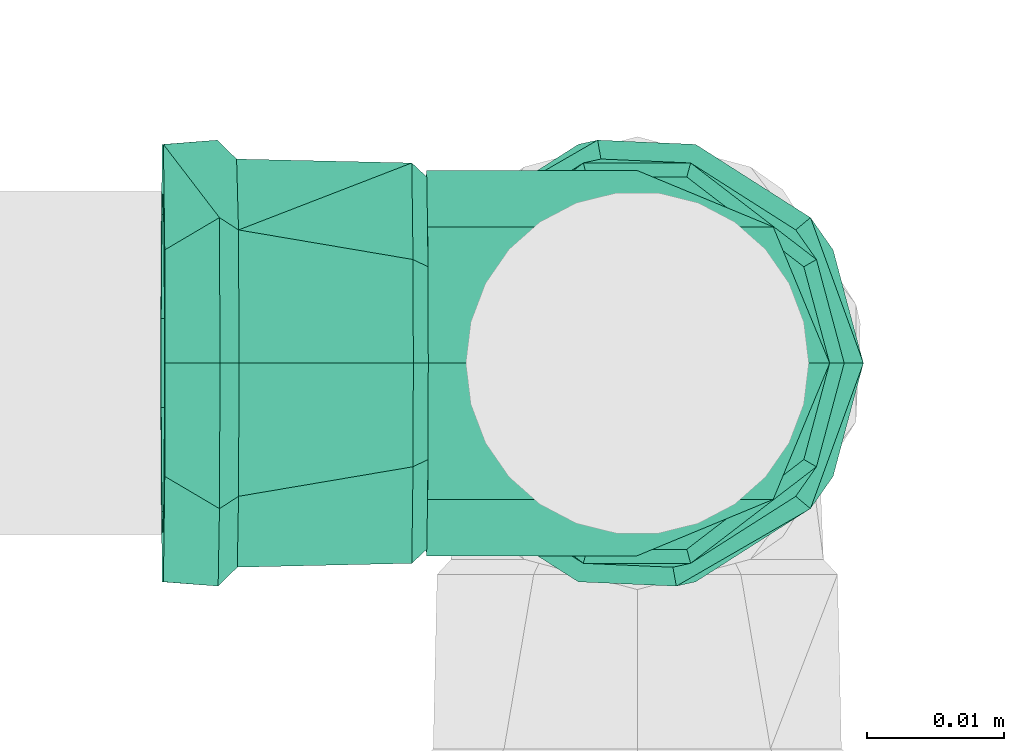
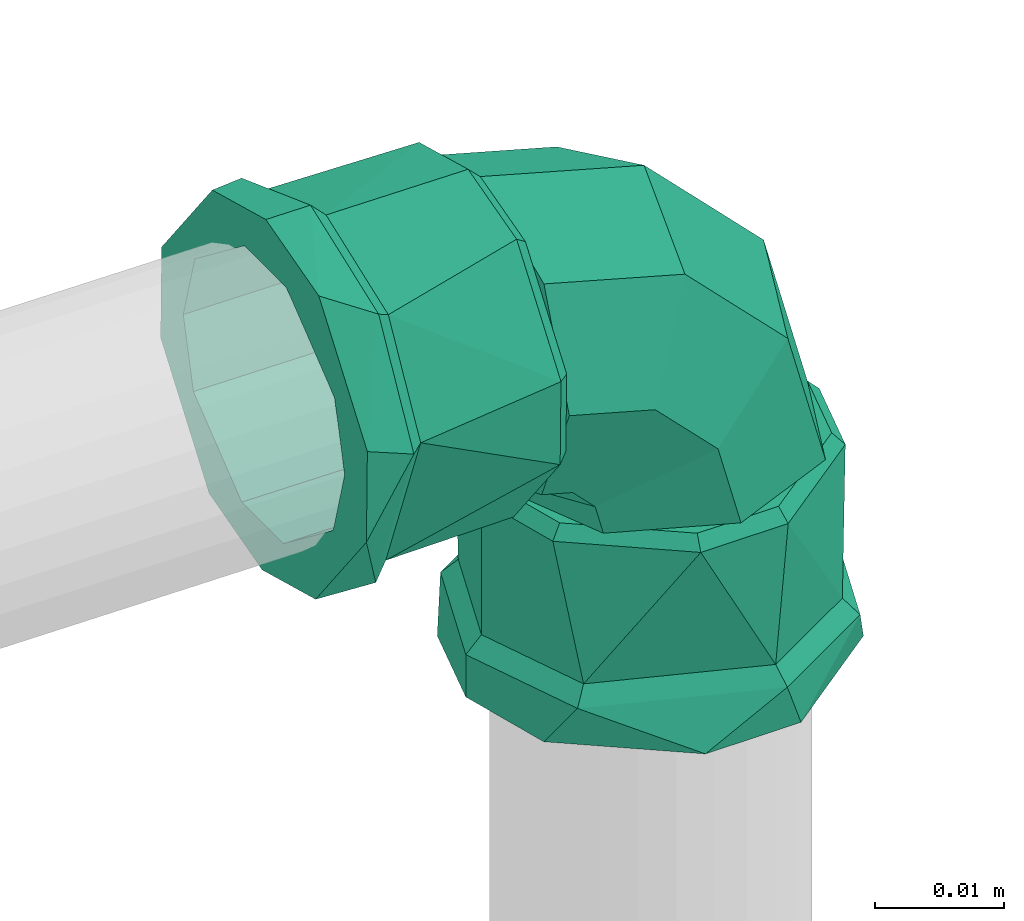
# One storey, part 310 of 589: 1 flow fitting.
"""IFC2X3 building model written with IfcOpenShell, lengths in millimetres."""

from ifc_helpers import new_model, entity, si_unit, converted_unit, derived_unit, direction, frame, origin, place, context, subcontext, project, spatial, faceted_brep, source, transform, mapped, material, type_object, type_shapes, element, save


model = new_model("IFC2X3")

# Units and contexts
model_context = context("Model", 3, precision=0.01, world=origin(), true_north=direction((6.123031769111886e-17, 1.0)))
body_context = subcontext(model_context, "Body", "Model", "MODEL_VIEW")
ifc_project = project(units=[si_unit("LENGTHUNIT", "METRE", prefix="MILLI"), si_unit("AREAUNIT", "SQUARE_METRE"), si_unit("VOLUMEUNIT", "CUBIC_METRE"), converted_unit("PLANEANGLEUNIT", "DEGREE", entity("IfcRatioMeasure", 0.017453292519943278), si_unit("PLANEANGLEUNIT", "RADIAN"), dimensions=[0, 0, 0, 0, 0, 0, 0]), si_unit("MASSUNIT", "GRAM", prefix="KILO"), derived_unit("MASSDENSITYUNIT", [(si_unit("MASSUNIT", "GRAM", prefix="KILO"), 1), (si_unit("LENGTHUNIT", "METRE"), -3)]), derived_unit("IONCONCENTRATIONUNIT", [(si_unit("MASSUNIT", "GRAM", prefix="KILO"), 1), (si_unit("LENGTHUNIT", "METRE"), -3)]), derived_unit("MOMENTOFINERTIAUNIT", [(si_unit("LENGTHUNIT", "METRE"), 4)]), si_unit("TIMEUNIT", "SECOND"), si_unit("FREQUENCYUNIT", "HERTZ"), si_unit("THERMODYNAMICTEMPERATUREUNIT", "DEGREE_CELSIUS"), derived_unit("THERMALTRANSMITTANCEUNIT", [(si_unit("MASSUNIT", "GRAM", prefix="KILO"), 1), (si_unit("THERMODYNAMICTEMPERATUREUNIT", "KELVIN"), -1), (si_unit("TIMEUNIT", "SECOND"), -3)]), derived_unit("THERMALCONDUCTANCEUNIT", [(si_unit("MASSUNIT", "GRAM", prefix="KILO"), 1), (si_unit("THERMODYNAMICTEMPERATUREUNIT", "KELVIN"), -1), (si_unit("TIMEUNIT", "SECOND"), -3), (si_unit("LENGTHUNIT", "METRE"), 1)]), derived_unit("VOLUMETRICFLOWRATEUNIT", [(si_unit("LENGTHUNIT", "METRE"), 3), (si_unit("TIMEUNIT", "SECOND"), -1)]), derived_unit("MASSFLOWRATEUNIT", [(si_unit("MASSUNIT", "GRAM", prefix="KILO"), 1), (si_unit("TIMEUNIT", "SECOND"), -1)]), derived_unit("ROTATIONALFREQUENCYUNIT", [(si_unit("TIMEUNIT", "SECOND"), -1)]), si_unit("ELECTRICCURRENTUNIT", "AMPERE"), si_unit("ELECTRICVOLTAGEUNIT", "VOLT"), si_unit("POWERUNIT", "WATT"), si_unit("FORCEUNIT", "NEWTON", prefix="KILO"), si_unit("ILLUMINANCEUNIT", "LUX"), si_unit("LUMINOUSFLUXUNIT", "LUMEN"), si_unit("LUMINOUSINTENSITYUNIT", "CANDELA"), derived_unit("USERDEFINED", [(si_unit("MASSUNIT", "GRAM", prefix="KILO"), -1), (si_unit("LENGTHUNIT", "METRE"), -2), (si_unit("TIMEUNIT", "SECOND"), 3), (si_unit("LUMINOUSFLUXUNIT", "LUMEN"), 1)]), derived_unit("USERDEFINED", [(si_unit("MASSUNIT", "GRAM", prefix="KILO"), 1), (si_unit("TIMEUNIT", "SECOND"), -3), (si_unit("LENGTHUNIT", "METRE"), 3), (si_unit("ELECTRICCURRENTUNIT", "AMPERE"), -2)]), derived_unit("SOUNDPOWERUNIT", [(si_unit("MASSUNIT", "GRAM", prefix="KILO"), 1), (si_unit("TIMEUNIT", "SECOND"), -3), (si_unit("LENGTHUNIT", "METRE"), 2)]), derived_unit("SOUNDPRESSUREUNIT", [(si_unit("MASSUNIT", "GRAM", prefix="KILO"), 1), (si_unit("LENGTHUNIT", "METRE"), -1), (si_unit("TIMEUNIT", "SECOND"), -2)]), derived_unit("LINEARVELOCITYUNIT", [(si_unit("LENGTHUNIT", "METRE"), 1), (si_unit("TIMEUNIT", "SECOND"), -1)]), si_unit("PRESSUREUNIT", "PASCAL"), derived_unit("USERDEFINED", [(si_unit("MASSUNIT", "GRAM", prefix="KILO"), 1), (si_unit("LENGTHUNIT", "METRE"), -2), (si_unit("TIMEUNIT", "SECOND"), -2)]), derived_unit("LINEARFORCEUNIT", [(si_unit("MASSUNIT", "GRAM", prefix="KILO"), 1), (si_unit("TIMEUNIT", "SECOND"), -2)]), derived_unit("PLANARFORCEUNIT", [(si_unit("MASSUNIT", "GRAM", prefix="KILO"), 1), (si_unit("LENGTHUNIT", "METRE"), -1), (si_unit("TIMEUNIT", "SECOND"), -2)]), derived_unit("SPECIFICHEATCAPACITYUNIT", [(si_unit("THERMODYNAMICTEMPERATUREUNIT", "KELVIN"), -1), (si_unit("LENGTHUNIT", "METRE"), 2), (si_unit("TIMEUNIT", "SECOND"), -2)]), derived_unit("HEATINGVALUEUNIT", [(si_unit("LENGTHUNIT", "METRE"), 2), (si_unit("TIMEUNIT", "SECOND"), -2)]), derived_unit("VAPORPERMEABILITYUNIT", [(si_unit("LENGTHUNIT", "METRE"), -1), (si_unit("TIMEUNIT", "SECOND"), 1)]), derived_unit("DYNAMICVISCOSITYUNIT", [(si_unit("MASSUNIT", "GRAM", prefix="KILO"), 1), (si_unit("TIMEUNIT", "SECOND"), -1), (si_unit("LENGTHUNIT", "METRE"), -1)]), derived_unit("THERMALEXPANSIONCOEFFICIENTUNIT", [(si_unit("THERMODYNAMICTEMPERATUREUNIT", "KELVIN"), -1)]), derived_unit("MODULUSOFELASTICITYUNIT", [(si_unit("MASSUNIT", "GRAM", prefix="KILO"), 1), (si_unit("LENGTHUNIT", "METRE"), -1), (si_unit("TIMEUNIT", "SECOND"), -2)]), derived_unit("ISOTHERMALMOISTURECAPACITYUNIT", [(si_unit("LENGTHUNIT", "METRE"), 3), (si_unit("MASSUNIT", "GRAM", prefix="KILO"), -1)]), derived_unit("MOISTUREDIFFUSIVITYUNIT", [(si_unit("TIMEUNIT", "SECOND"), -1), (si_unit("LENGTHUNIT", "METRE"), 2)])], contexts=[model_context])

# Site, building, storey
site_placement = place(None, origin())
site = spatial("IfcSite", under=ifc_project, at=site_placement, Name="Default", CompositionType="ELEMENT")
building_placement = place(site_placement, origin())
building = spatial("IfcBuilding", under=site, at=building_placement, CompositionType="ELEMENT")
storey_placement = place(building_placement, frame((0.0, 0.0, 100.0)))
storey = spatial("IfcBuildingStorey", under=building, at=storey_placement, Name="TÉRREO", CompositionType="ELEMENT", Elevation=100.0)

# Flow fitting
ifc_material = material(Name="PVC Marrom")
pipe_fitting_type = type_object("IfcPipeFittingType", Name="PVC Marrom Soldável_Joelho 45°_90°_Rodrigo MEP:Joelho", PredefinedType="NOTDEFINED", material=ifc_material)
shared_shape = source(origin(), body_context, "Body", "Brep", [
    faceted_brep([(4.072421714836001, -16.405873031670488, 14.585479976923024), (-3.7435226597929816, -16.48403247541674, 14.585479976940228), (-12.911880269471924, -16.57571605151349, 7.549999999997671), (-14.934795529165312, -16.59594520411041, 0.0), (-12.91188026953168, -16.575716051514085, -7.550000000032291), (-3.7435226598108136, -16.48403247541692, -14.585479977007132), (4.07242171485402, -16.405873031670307, -14.585479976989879), (13.240779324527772, -16.314189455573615, -7.55000000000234), (15.263694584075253, -16.29396030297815, 0.0), (13.240779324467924, -16.314189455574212, 7.549999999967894), (3.7870877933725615, -15.308671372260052, 13.561598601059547), (12.31183884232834, -15.223423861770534, 7.019999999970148), (14.192748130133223, -15.204614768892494, 0.0), (12.311838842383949, -15.223423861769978, -7.02000000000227), (3.7870877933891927, -15.308671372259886, -13.561598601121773), (-3.480187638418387, -15.381344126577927, -13.561598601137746), (-12.004938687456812, -15.466591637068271, -7.020000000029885), (-13.885847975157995, -15.485400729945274, 0.0), (-12.004938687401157, -15.466591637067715, 7.0199999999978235), (-3.4801876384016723, -15.38134412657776, 13.561598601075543)], [[[0, 1, 2, 3, 4, 5, 6, 7, 8, 9]], [[10, 11, 12, 13, 14, 15, 16, 17, 18, 19]], [[13, 12, 8, 7]], [[14, 13, 7, 6]], [[6, 5, 15, 14]], [[16, 15, 5, 4]], [[17, 16, 4, 3]], [[18, 17, 3, 2]], [[19, 18, 2, 1]], [[1, 0, 10, 19]], [[11, 10, 0, 9]], [[12, 11, 9, 8]]]),
    faceted_brep([(-16.445774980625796, -3.908167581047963, 14.585479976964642), (-16.445774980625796, 3.908167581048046, 14.585479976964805), (-16.445774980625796, 13.076983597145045, 7.550000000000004), (-16.445774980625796, 15.100000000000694, 0.0), (-16.445774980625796, 13.0769835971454, -7.550000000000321), (-16.445774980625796, 3.9081675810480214, -14.585479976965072), (-16.445774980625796, -3.9081675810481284, -14.58547997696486), (-16.445774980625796, -13.076983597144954, -7.54999999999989), (-16.445774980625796, -15.099999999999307, 0.0), (-16.445774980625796, -13.076983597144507, 7.549999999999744), (-15.345774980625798, 3.633819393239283, 13.56159860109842), (-15.345774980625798, -3.6338193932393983, 13.561598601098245), (-15.345774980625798, -12.158996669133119, 7.019999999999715), (-15.345774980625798, -14.040000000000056, 0.0), (-15.345774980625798, -12.158996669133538, -7.019999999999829), (-15.345774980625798, -3.6338193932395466, -13.56159860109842), (-15.345774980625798, 3.63381939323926, -13.561598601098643), (-15.345774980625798, 12.158996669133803, -7.020000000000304), (-15.345774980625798, 14.039999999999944, 0.0), (-15.345774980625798, 12.15899666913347, 7.020000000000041)], [[[0, 1, 2, 3, 4, 5, 6, 7, 8, 9]], [[10, 11, 12, 13, 14, 15, 16, 17, 18, 19]], [[14, 13, 8, 7]], [[15, 14, 7, 6]], [[6, 5, 16, 15]], [[17, 16, 5, 4]], [[18, 17, 4, 3]], [[19, 18, 3, 2]], [[10, 19, 2, 1]], [[1, 0, 11, 10]], [[12, 11, 0, 9]], [[13, 12, 9, 8]]]),
    faceted_brep([(-34.545774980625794, 0.0, -12.5), (-34.545774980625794, 6.250000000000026, -10.825317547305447), (-34.545774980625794, 4.2705142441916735, -15.937776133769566), (-34.545774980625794, -4.270514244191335, -15.937776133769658), (-34.545774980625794, -6.250000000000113, -10.82531754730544), (-34.545774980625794, 14.289419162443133, -8.25000000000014), (-34.545774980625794, 12.074072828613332, -3.23523806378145), (-34.545774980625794, 16.5, 0.0), (-34.545774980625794, 12.074072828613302, 3.2352380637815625), (-34.545774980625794, 14.289419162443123, 8.249999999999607), (-34.545774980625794, 6.249999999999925, 10.825317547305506), (-34.545774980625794, 4.27051424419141, 15.937776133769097), (-34.545774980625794, 0.0, 12.5), (-34.545774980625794, -4.270514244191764, 15.937776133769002), (-34.545774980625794, -6.249999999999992, 10.825317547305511), (-34.545774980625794, -14.28941916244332, 8.249999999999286), (-34.545774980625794, -12.074072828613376, 3.2352380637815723), (-34.545774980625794, -16.5, 0.0), (-34.545774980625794, -12.074072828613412, -3.235238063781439), (-34.545774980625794, -14.289419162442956, -8.250000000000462), (-30.545774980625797, -16.5, 0.0), (-30.545774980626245, -12.639142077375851, 10.606700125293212), (-30.545774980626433, -4.885841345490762, 13.427814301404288), (-30.54577498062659, 2.8674593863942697, 16.24892847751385), (-30.545774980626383, 12.64180232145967, 10.603529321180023), (-30.545774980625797, 16.499999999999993, 0.0), (-30.545774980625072, 12.641802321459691, -10.603529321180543), (-30.545774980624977, 4.889209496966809, -13.426588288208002), (-30.54577498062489, -2.8633833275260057, -16.249647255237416), (-30.545774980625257, -12.639142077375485, -10.606700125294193), (-29.145774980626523, 11.56916454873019, 9.703835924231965), (-29.145774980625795, 15.099999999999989, 0.0), (-29.145774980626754, 2.624159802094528, 14.870231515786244), (-29.145774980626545, -4.471285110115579, 12.288484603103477), (-29.14577498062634, -11.566730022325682, 9.706737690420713), (-29.145774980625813, -15.099999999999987, 0.0), (-29.14577498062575, -11.566730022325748, -9.706737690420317), (-29.145774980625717, -2.620429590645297, -14.87088930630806), (-29.14577498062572, 4.4743674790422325, -12.287362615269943), (-29.145774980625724, 11.569164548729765, -9.703835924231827), (-16.445774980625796, 3.908167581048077, -14.585479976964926), (-16.445774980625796, 6.250000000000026, -10.825317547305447), (-16.445774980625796, 0.0, -12.5), (-16.445774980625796, 13.076983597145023, -7.549999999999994), (-16.445774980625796, -3.9081675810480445, -14.585479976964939), (-16.445774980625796, 12.074072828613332, -3.23523806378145), (-16.445774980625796, 15.099999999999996, 0.0), (-16.445774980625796, 12.074072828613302, 3.2352380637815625), (-16.445774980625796, 13.076983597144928, 7.550000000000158), (-16.445774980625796, 6.249999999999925, 10.825317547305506), (-16.445774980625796, 3.9081675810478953, 14.585479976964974), (-16.445774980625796, 0.0, 12.5), (-16.445774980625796, -3.9081675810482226, 14.58547997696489), (-16.445774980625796, -6.249999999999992, 10.825317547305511), (-16.445774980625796, -13.076983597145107, 7.549999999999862), (-16.445774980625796, -12.074072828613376, 3.2352380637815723), (-16.445774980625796, -15.100000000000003, 0.0), (-16.445774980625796, -12.074072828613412, -3.235238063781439), (-16.445774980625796, -13.076983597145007, -7.550000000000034), (-16.445774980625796, -6.250000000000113, -10.82531754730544)], [[[0, 1, 2]], [[2, 3, 0]], [[4, 0, 3]], [[5, 2, 1]], [[1, 6, 5]], [[6, 7, 5]], [[8, 7, 6]], [[7, 8, 9]], [[10, 9, 8]], [[9, 10, 11]], [[12, 11, 10]], [[13, 11, 12]], [[12, 14, 13]], [[13, 14, 15]], [[16, 15, 14]], [[15, 16, 17]], [[16, 18, 17]], [[19, 18, 4]], [[17, 18, 19]], [[3, 19, 4]], [[20, 15, 17]], [[20, 21, 15]], [[13, 15, 21]], [[13, 21, 22, 23]], [[9, 11, 24]], [[7, 9, 25]], [[23, 24, 11]], [[25, 9, 24]], [[13, 23, 11]], [[25, 5, 7]], [[25, 26, 5]], [[2, 5, 26]], [[2, 26, 27, 28]], [[19, 3, 29]], [[17, 19, 20]], [[28, 29, 3]], [[20, 19, 29]], [[2, 28, 3]], [[24, 30, 31, 25]], [[30, 24, 23, 32]], [[33, 32, 23, 22, 21, 34]], [[20, 35, 34, 21]], [[29, 36, 35, 20]], [[36, 29, 28, 37]], [[38, 37, 28, 27, 26, 39]], [[25, 31, 39, 26]], [[40, 41, 42]], [[41, 40, 43]], [[42, 44, 40]], [[43, 45, 41]], [[43, 46, 45]], [[45, 46, 47]], [[48, 47, 46]], [[47, 48, 49]], [[50, 49, 48]], [[49, 50, 51]], [[51, 50, 52]], [[52, 53, 51]], [[54, 53, 52]], [[53, 54, 55]], [[56, 55, 54]], [[56, 57, 55]], [[58, 57, 56]], [[59, 57, 58]], [[59, 58, 44]], [[44, 42, 59]], [[54, 34, 35]], [[56, 54, 35]], [[52, 34, 54]], [[52, 32, 33, 34]], [[30, 32, 50]], [[31, 30, 48]], [[50, 48, 30]], [[46, 31, 48]], [[52, 50, 32]], [[43, 39, 31]], [[46, 43, 31]], [[40, 39, 43]], [[40, 37, 38, 39]], [[36, 37, 44]], [[35, 36, 58]], [[44, 58, 36]], [[56, 35, 58]], [[40, 44, 37]], [[49, 51, 12, 10]], [[47, 49, 10, 8]], [[8, 6, 45, 47]], [[41, 45, 6, 1]], [[42, 41, 1, 0]], [[59, 42, 0, 4]], [[57, 59, 4, 18]], [[18, 16, 55, 57]], [[53, 55, 16, 14]], [[51, 53, 14, 12]]]),
    faceted_brep([(10.13758433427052, -0.5597858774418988, 0.0), (6.590082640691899, -2.6395915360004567, 9.92777920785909), (10.080732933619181, -15.245734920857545, 9.92777920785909), (14.192748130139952, -15.20461476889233, 0.0), (-1.9743440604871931, -7.660686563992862, 14.04), (0.15345007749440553, -15.34500774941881, 14.04), (-10.538770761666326, -12.681781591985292, 9.927779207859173), (-9.77383277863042, -15.444280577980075, 9.927779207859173), (-14.086272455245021, -14.761587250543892, 0.0), (-13.885847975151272, -15.48540072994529, 0.0), (-10.538770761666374, -12.681781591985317, -9.92777920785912), (-9.77383277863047, -15.444280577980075, -9.92777920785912), (-1.974344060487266, -7.660686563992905, -14.04), (0.15345007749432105, -15.34500774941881, -14.04), (6.590082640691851, -2.6395915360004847, -9.927779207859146), (10.080732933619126, -15.245734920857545, -9.927779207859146), (-0.6611286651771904, 10.131479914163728, 0.0), (-2.7053570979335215, 6.563358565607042, 9.92777920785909), (-7.640561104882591, -2.050848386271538, 14.04), (-12.575765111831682, -10.665055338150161, 9.927779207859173), (-14.619993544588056, -14.233176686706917, 0.0), (-12.57576511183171, -10.665055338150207, -9.92777920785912), (-7.640561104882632, -2.050848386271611, -14.04), (-2.705357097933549, 6.563358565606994, -9.927779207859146), (-15.345774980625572, 14.03999999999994, 0.0), (-15.3457749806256, 9.927779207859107, 9.92777920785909), (-15.345774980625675, 0.0, 14.04), (-15.345774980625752, -9.927779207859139, 9.927779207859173), (-15.345774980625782, -14.040000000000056, 0.0), (-15.345774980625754, -9.927779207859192, -9.92777920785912), (-15.345774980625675, 0.0, -14.04), (-15.3457749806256, 9.92777920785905, -9.927779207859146)], [[[0, 1, 2, 3]], [[1, 4, 5, 2]], [[4, 6, 7, 5]], [[6, 8, 9, 7]], [[8, 10, 11, 9]], [[10, 12, 13, 11]], [[12, 14, 15, 13]], [[14, 0, 3, 15]], [[16, 17, 1, 0]], [[17, 18, 4, 1]], [[18, 19, 6, 4]], [[19, 20, 8, 6]], [[20, 21, 10, 8]], [[21, 22, 12, 10]], [[22, 23, 14, 12]], [[23, 16, 0, 14]], [[24, 25, 17, 16]], [[25, 26, 18, 17]], [[26, 27, 19, 18]], [[27, 28, 20, 19]], [[28, 29, 21, 20]], [[29, 30, 22, 21]], [[30, 31, 23, 22]], [[31, 24, 16, 23]], [[3, 2, 5, 7, 9, 11, 13, 15]], [[31, 30, 29, 28, 27, 26, 25, 24]]]),
    faceted_brep([(-3.743522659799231, -16.484032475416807, -14.585479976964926), (-6.085237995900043, -16.507449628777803, -10.825317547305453), (0.16444952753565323, -16.444952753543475, -12.5), (-12.911880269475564, -16.575716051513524, -7.5499999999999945), (4.072421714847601, -16.40587303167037, -14.585479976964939), (-11.90901964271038, -16.565687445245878, -3.235238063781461), (-14.934795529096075, -16.595945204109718, 0.0), (-11.90901964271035, -16.565687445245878, 3.2352380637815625), (-12.911880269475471, -16.575716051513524, 7.550000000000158), (-6.08523799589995, -16.507449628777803, 10.825317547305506), (-3.7435226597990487, -16.484032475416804, 14.585479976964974), (0.16444952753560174, -16.444952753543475, 12.5), (4.0724217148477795, -16.40587303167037, 14.58547997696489), (6.414137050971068, -16.38245587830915, 10.825317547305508), (13.240779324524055, -16.31418945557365, 7.549999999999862), (12.23791869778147, -16.324218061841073, 3.2352380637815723), (15.263694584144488, -16.293960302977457, 0.0), (12.23791869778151, -16.324218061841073, -3.235238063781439), (13.240779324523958, -16.31418945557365, -7.550000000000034), (6.414137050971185, -16.38245587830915, -10.82531754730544), (11.85759490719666, -29.02865628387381, 9.706737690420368), (15.39068823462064, -28.99332535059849, 0.0), (2.911741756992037, -29.11811481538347, 14.870889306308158), (-11.27714295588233, -29.260003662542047, 9.703835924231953), (-4.182700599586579, -29.189059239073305, 12.287362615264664), (-14.807801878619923, -29.29531025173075, 0.0), (-11.27714295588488, -29.26000366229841, -9.703835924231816), (-2.332585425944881, -29.170558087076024, -14.870231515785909), (11.857594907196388, -29.028656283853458, -9.706737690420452), (4.76250474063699, -29.099607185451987, -12.28848460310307), (3.1727585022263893, -30.515574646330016, 16.248928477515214), (-4.580154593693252, -30.59310377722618, 13.427814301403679), (-16.193732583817, -30.709239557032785, 0.0), (-12.333067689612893, -30.670632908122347, 10.606700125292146), (12.946612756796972, -30.41783610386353, 10.603529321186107), (16.80461753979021, -30.37925605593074, 0.0), (12.946612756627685, -30.41783610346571, -10.603529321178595), (5.194407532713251, -30.495358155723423, -13.426588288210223), (-2.557797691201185, -30.572880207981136, -16.249647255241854), (-12.333067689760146, -30.670632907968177, -10.606700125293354), (0.34544047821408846, -34.54404782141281, -12.5), (-5.904247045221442, -34.606544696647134, -10.825317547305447), (-3.9248602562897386, -34.58675082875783, -15.937776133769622), (4.61574121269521, -34.50134481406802, -15.937776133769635), (6.595128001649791, -34.48155094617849, -10.82531754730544), (-13.94326426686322, -34.68693486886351, -8.24999999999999), (-11.72802869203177, -34.664782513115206, -3.23523806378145), (-16.153734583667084, -34.709039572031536, 0.0), (-11.72802869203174, -34.664782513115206, 3.2352380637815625), (-13.943264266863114, -34.68693486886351, 8.250000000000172), (-5.904247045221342, -34.606544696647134, 10.825317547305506), (-3.92486025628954, -34.58675082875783, 15.937776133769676), (0.34544047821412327, -34.54404782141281, 12.5), (4.615741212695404, -34.50134481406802, 15.937776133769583), (6.5951280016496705, -34.48155094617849, 10.825317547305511), (14.63414522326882, -34.40116077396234, 8.24999999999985), (12.418909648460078, -34.423313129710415, 3.2352380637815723), (16.844615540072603, -34.37905607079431, 0.0), (12.418909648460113, -34.423313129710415, -3.235238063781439), (14.634145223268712, -34.40116077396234, -8.250000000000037)], [[[0, 1, 2]], [[1, 0, 3]], [[2, 4, 0]], [[3, 5, 1]], [[3, 6, 5]], [[5, 6, 7]], [[8, 7, 6]], [[7, 8, 9]], [[10, 9, 8]], [[9, 10, 11]], [[11, 10, 12]], [[12, 13, 11]], [[14, 13, 12]], [[13, 14, 15]], [[16, 15, 14]], [[16, 17, 15]], [[18, 17, 16]], [[19, 17, 18]], [[19, 18, 4]], [[4, 2, 19]], [[14, 20, 21]], [[16, 14, 21]], [[12, 20, 14]], [[12, 22, 20]], [[10, 23, 24, 22]], [[25, 23, 8]], [[10, 8, 23]], [[6, 25, 8]], [[12, 10, 22]], [[3, 26, 25]], [[6, 3, 25]], [[0, 26, 3]], [[0, 27, 26]], [[4, 28, 29, 27]], [[21, 28, 18]], [[4, 18, 28]], [[16, 21, 18]], [[0, 4, 27]], [[30, 22, 31]], [[32, 23, 25]], [[33, 23, 32]], [[31, 24, 33]], [[34, 21, 20]], [[24, 23, 33]], [[20, 30, 34]], [[21, 34, 35]], [[24, 31, 22]], [[22, 30, 20]], [[36, 28, 21]], [[21, 35, 36]], [[36, 37, 28]], [[37, 29, 28]], [[37, 38, 29]], [[32, 25, 26]], [[27, 39, 26]], [[32, 26, 39]], [[27, 29, 38]], [[38, 39, 27]], [[40, 41, 42]], [[42, 43, 40]], [[44, 40, 43]], [[45, 42, 41]], [[41, 46, 45]], [[46, 47, 45]], [[48, 47, 46]], [[47, 48, 49]], [[50, 49, 48]], [[49, 50, 51]], [[52, 51, 50]], [[53, 51, 52]], [[52, 54, 53]], [[53, 54, 55]], [[56, 55, 54]], [[55, 56, 57]], [[56, 58, 57]], [[59, 58, 44]], [[57, 58, 59]], [[43, 59, 44]], [[35, 55, 57]], [[35, 34, 55]], [[53, 55, 34]], [[30, 53, 34]], [[49, 51, 33]], [[47, 49, 32]], [[51, 30, 31, 33]], [[32, 49, 33]], [[53, 30, 51]], [[32, 45, 47]], [[32, 39, 45]], [[42, 45, 39]], [[38, 42, 39]], [[59, 43, 36]], [[57, 59, 35]], [[43, 38, 37, 36]], [[35, 59, 36]], [[42, 38, 43]], [[9, 11, 52, 50]], [[7, 9, 50, 48]], [[48, 46, 5, 7]], [[1, 5, 46, 41]], [[2, 1, 41, 40]], [[19, 2, 40, 44]], [[17, 19, 44, 58]], [[58, 56, 15, 17]], [[13, 15, 56, 54]], [[11, 13, 54, 52]]]),
])
type_shapes(pipe_fitting_type, [shared_shape])
flow_fitting_placement = place(storey_placement, frame((-4815.051976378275, -7887.861245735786, 2570.9410826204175), z_axis=(0.0, -1.0, 0.0), x_axis=(0.9999500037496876, 0.0, -0.009999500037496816)))
element("IfcFlowFitting", 1, at=flow_fitting_placement, inside=storey, type_object=pipe_fitting_type, material=ifc_material, Name="PVC Marrom Soldável_Joelho 45°_90°_Rodrigo MEP:Joelho", ObjectType="PVC Marrom Soldável_Joelho 45°_90°_Rodrigo MEP:Joelho", context=body_context, shape_type="MappedRepresentation", body=[
    mapped(shared_shape, transform((0.0, 0.0, 0.0), scale=1.0)),
])

save(model, "model.ifc")
